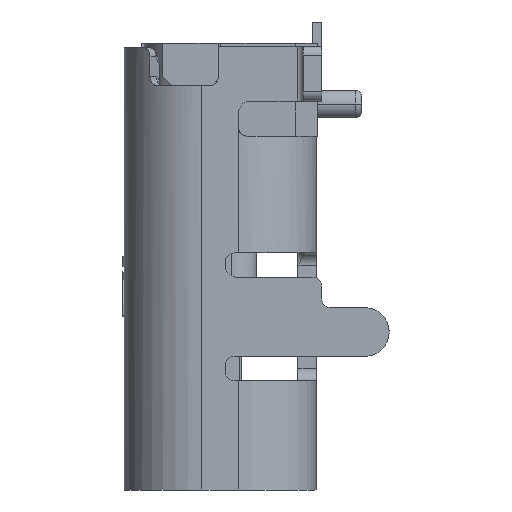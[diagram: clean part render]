
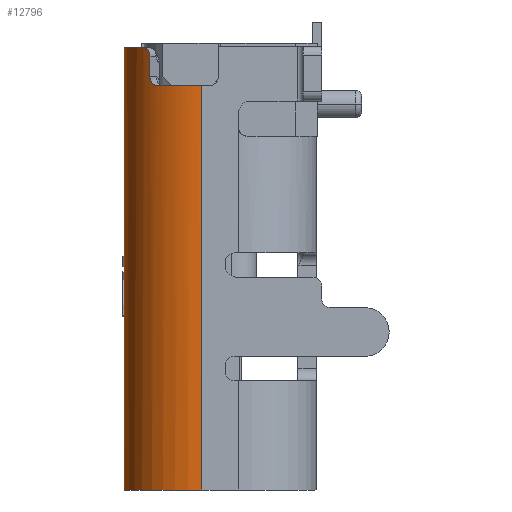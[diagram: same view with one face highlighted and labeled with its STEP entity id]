
A CAD part, left-side view. The second image highlights one B-rep face of the part: STEP entity #12796.
In plain terms, the highlighted cylindrical face has radius 1.28 mm (diameter 2.56 mm), a partial arc.
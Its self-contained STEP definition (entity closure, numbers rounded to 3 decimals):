
#11=DIRECTION('',(0.,0.,-1.));
#12=VECTOR('',#11,7.275);
#13=CARTESIAN_POINT('',(-3.19,1.575,-3.633));
#14=LINE('',#13,#12);
#391=CARTESIAN_POINT('',(-3.19,0.295,-3.633));
#392=DIRECTION('',(0.,0.,-1.));
#393=DIRECTION('',(-0.657,0.754,0.));
#394=AXIS2_PLACEMENT_3D('',#391,#392,#393);
#539=CARTESIAN_POINT('',(-4.031,1.26,-3.633));
#540=CARTESIAN_POINT('',(-4.045,1.248,-3.633));
#541=CARTESIAN_POINT('',(-4.07,1.224,-3.639));
#542=CARTESIAN_POINT('',(-4.101,1.195,-3.66));
#543=CARTESIAN_POINT('',(-4.125,1.169,-3.694));
#544=CARTESIAN_POINT('',(-4.14,1.153,-3.738));
#545=CARTESIAN_POINT('',(-4.143,1.15,-3.767));
#546=CARTESIAN_POINT('',(-4.143,1.15,-3.783));
#548=DIRECTION('',(0.,0.,-1.));
#549=VECTOR('',#548,0.325);
#550=CARTESIAN_POINT('',(-4.143,1.15,-3.783));
#551=LINE('',#550,#549);
#552=CARTESIAN_POINT('',(-4.143,1.15,-4.108));
#553=CARTESIAN_POINT('',(-4.143,1.15,-4.123));
#554=CARTESIAN_POINT('',(-4.145,1.147,-4.152));
#555=CARTESIAN_POINT('',(-4.16,1.13,-4.197));
#556=CARTESIAN_POINT('',(-4.182,1.104,-4.23));
#557=CARTESIAN_POINT('',(-4.209,1.07,-4.253));
#558=CARTESIAN_POINT('',(-4.228,1.045,-4.258));
#559=CARTESIAN_POINT('',(-4.237,1.031,-4.258));
#561=CARTESIAN_POINT('',(-3.19,0.295,-4.258));
#562=DIRECTION('',(0.,0.,-1.));
#563=DIRECTION('',(-0.98,0.197,0.));
#564=AXIS2_PLACEMENT_3D('',#561,#562,#563);
#574=CARTESIAN_POINT('',(-3.19,0.295,-4.258));
#575=DIRECTION('',(0.,0.,-1.));
#576=DIRECTION('',(-0.921,0.391,0.));
#577=AXIS2_PLACEMENT_3D('',#574,#575,#576);
#723=DIRECTION('',(0.,0.,1.));
#724=VECTOR('',#723,6.65);
#725=CARTESIAN_POINT('',(-4.47,0.295,
-10.908));
#726=LINE('',#725,#724);
#3411=CARTESIAN_POINT('',(-3.19,0.295,-10.908));
#3412=DIRECTION('',(0.,0.,1.));
#3413=DIRECTION('',(0.,1.,0.));
#3414=AXIS2_PLACEMENT_3D('',#3411,#3412,#3413);
#4528=CARTESIAN_POINT('',(-3.19,0.295,-4.258));
#4529=DIRECTION('',(0.,0.,-1.));
#4530=DIRECTION('',(-1.,0.,0.));
#4531=AXIS2_PLACEMENT_3D('',#4528,#4529,#4530);
#9583=CARTESIAN_POINT('',(-4.031,1.26,
-3.633));
#9585=VERTEX_POINT('',#9583);
#9586=CARTESIAN_POINT('',(-3.19,1.575,
-3.633));
#9587=VERTEX_POINT('',#9586);
#9593=CARTESIAN_POINT('',(-4.143,1.15,
-3.783));
#9595=VERTEX_POINT('',#9593);
#9608=CARTESIAN_POINT('',(-4.143,1.15,
-4.108));
#9609=VERTEX_POINT('',#9608);
#9611=CARTESIAN_POINT('',(-4.47,0.295,
-10.908));
#9612=CARTESIAN_POINT('',(-4.47,0.295,
-4.258));
#9613=VERTEX_POINT('',#9611);
#9614=VERTEX_POINT('',#9612);
#9615=CARTESIAN_POINT('',(-3.19,1.575,
-10.908));
#9616=VERTEX_POINT('',#9615);
#9617=VERTEX_POINT('',#559);
#9618=CARTESIAN_POINT('',(-4.445,0.547,
-4.258));
#9619=CARTESIAN_POINT('',(-4.368,0.795,
-4.258));
#9620=VERTEX_POINT('',#9618);
#9621=VERTEX_POINT('',#9619);
#12774=CARTESIAN_POINT('',(-3.19,0.295,-3.487));
#12775=DIRECTION('',(0.,0.,-1.));
#12776=DIRECTION('',(-0.999,-0.051,0.));
#12777=AXIS2_PLACEMENT_3D('',#12774,#12775,#12776);
#12778=CYLINDRICAL_SURFACE('',#12777,1.28);
#12780=ORIENTED_EDGE('',*,*,#12779,.F.);
#12782=ORIENTED_EDGE('',*,*,#12781,.F.);
#12784=ORIENTED_EDGE('',*,*,#12783,.F.);
#12786=ORIENTED_EDGE('',*,*,#12785,.F.);
#12787=ORIENTED_EDGE('',*,*,#12202,.F.);
#12788=ORIENTED_EDGE('',*,*,#12595,.F.);
#12789=ORIENTED_EDGE('',*,*,#12616,.T.);
#12790=ORIENTED_EDGE('',*,*,#12750,.T.);
#12791=ORIENTED_EDGE('',*,*,#12763,.T.);
#12793=ORIENTED_EDGE('',*,*,#12792,.F.);
#12794=EDGE_LOOP('',(#12780,#12782,#12784,#12786,#12787,#12788,#12789,#12790,
#12791,#12793));
#12795=FACE_OUTER_BOUND('',#12794,.F.);
#395=CIRCLE('',#394,1.28);
#547=B_SPLINE_CURVE_WITH_KNOTS('',3,(#539,#540,#541,#542,#543,#544,#545,#546),
.UNSPECIFIED.,.F.,.F.,(4,1,1,1,1,4),(0.,0.2,0.4,0.6,0.8,1.),
.UNSPECIFIED.);
#560=B_SPLINE_CURVE_WITH_KNOTS('',3,(#552,#553,#554,#555,#556,#557,#558,#559),
.UNSPECIFIED.,.F.,.F.,(4,1,1,1,1,4),(0.,0.2,0.4,0.6,0.8,1.),
.UNSPECIFIED.);
#565=CIRCLE('',#564,1.28);
#578=CIRCLE('',#577,1.28);
#3415=CIRCLE('',#3414,1.28);
#4532=CIRCLE('',#4531,1.28);
#12202=EDGE_CURVE('',#9587,#9616,#14,.T.);
#12595=EDGE_CURVE('',#9585,#9587,#395,.T.);
#12616=EDGE_CURVE('',#9585,#9595,#547,.T.);
#12750=EDGE_CURVE('',#9595,#9609,#551,.T.);
#12763=EDGE_CURVE('',#9609,#9617,#560,.T.);
#12779=EDGE_CURVE('',#9620,#9621,#565,.T.);
#12781=EDGE_CURVE('',#9614,#9620,#4532,.T.);
#12783=EDGE_CURVE('',#9613,#9614,#726,.T.);
#12785=EDGE_CURVE('',#9616,#9613,#3415,.T.);
#12792=EDGE_CURVE('',#9621,#9617,#578,.T.);
#12796=ADVANCED_FACE('',(#12795),#12778,.T.);
